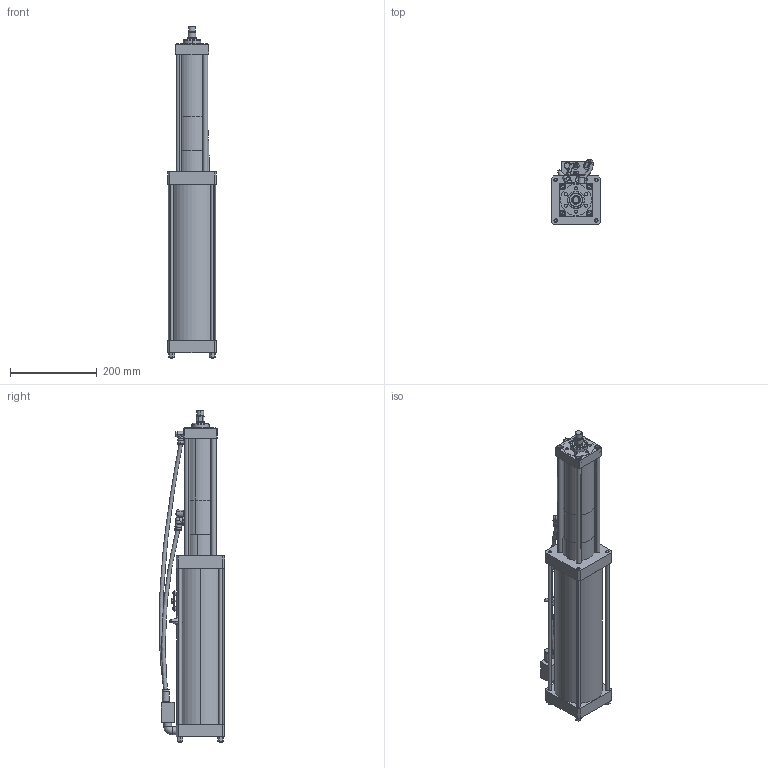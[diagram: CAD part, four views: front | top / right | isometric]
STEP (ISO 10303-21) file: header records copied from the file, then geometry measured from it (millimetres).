
FILE_DESCRIPTION (( 'STEP AP203' ), '1' );
FILE_NAME ('BS02-100-24S.step', '2025-07-31T09:39:30', ( 'Ranlm' ), ( '' ), 'SwSTEP 2.0', 'SolidWorks 2022', '' );
FILE_SCHEMA (( 'CONFIG_CONTROL_DESIGN' ));
Length unit declared in the file: millimetre
Products named in the file (1): BS02-100-24S
Bounding box: 112 x 150.66 x 767 mm (x, y, z)
Surface area: 430027.3 mm2 (no closed solid volume)
Topology: 0 solids, 53 shells, 536 faces, 1429 edges, 947 vertices
Faces by surface type: plane 230, cylinder 185, cone 82, torus 32, bspline 6, sphere 1
Entity records: 18225 total; most frequent: CARTESIAN_POINT 4565, DIRECTION 3062, ORIENTED_EDGE 2420, EDGE_CURVE 1423, AXIS2_PLACEMENT_3D 1177, VERTEX_POINT 946, LINE 708, VECTOR 708
